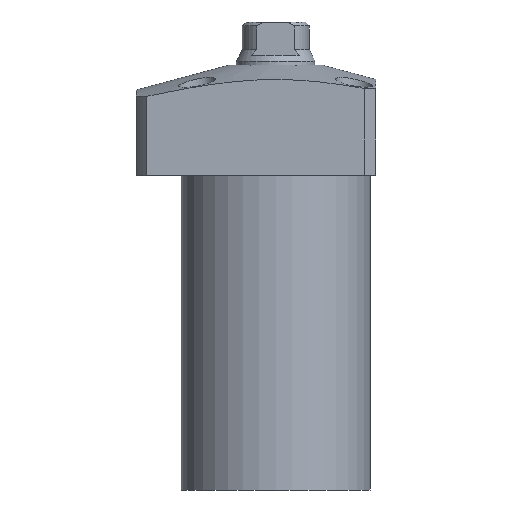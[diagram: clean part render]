
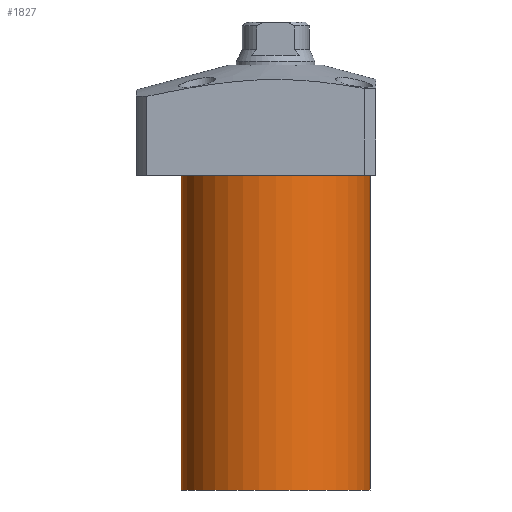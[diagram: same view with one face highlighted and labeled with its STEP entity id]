
A CAD part, front view. The second image highlights one B-rep face of the part: STEP entity #1827.
In plain terms, the highlighted cylindrical face has radius 24 mm (diameter 48 mm), a partial arc.
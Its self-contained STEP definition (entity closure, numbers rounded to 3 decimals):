
#13 = CARTESIAN_POINT ( 'NONE',  ( 0., 0., -94. ) ) ;
#23 = DIRECTION ( 'NONE',  ( 0., 0., 1. ) ) ;
#111 = CIRCLE ( 'NONE', #2467, 24. ) ;
#275 = VERTEX_POINT ( 'NONE', #2352 ) ;
#335 = EDGE_CURVE ( 'NONE', #1809, #2461, #382, .T. ) ;
#382 = LINE ( 'NONE', #419, #992 ) ;
#410 = ORIENTED_EDGE ( 'NONE', *, *, #710, .F. ) ;
#419 = CARTESIAN_POINT ( 'NONE',  ( -24., 0., -94. ) ) ;
#477 = ORIENTED_EDGE ( 'NONE', *, *, #335, .F. ) ;
#582 = EDGE_LOOP ( 'NONE', ( #477, #410, #707, #902 ) ) ;
#617 = CARTESIAN_POINT ( 'NONE',  ( -24., 0., -94. ) ) ;
#707 = ORIENTED_EDGE ( 'NONE', *, *, #1054, .T. ) ;
#710 = EDGE_CURVE ( 'NONE', #275, #1809, #2103, .T. ) ;
#747 = AXIS2_PLACEMENT_3D ( 'NONE', #770, #23, #2035 ) ;
#770 = CARTESIAN_POINT ( 'NONE',  ( 0., 0., -94. ) ) ;
#849 = CYLINDRICAL_SURFACE ( 'NONE', #747, 24. ) ;
#895 = VECTOR ( 'NONE', #2362, 1000. ) ;
#902 = ORIENTED_EDGE ( 'NONE', *, *, #1364, .T. ) ;
#992 = VECTOR ( 'NONE', #1800, 1000. ) ;
#1054 = EDGE_CURVE ( 'NONE', #275, #1197, #1911, .T. ) ;
#1058 = CARTESIAN_POINT ( 'NONE',  ( 24., 0., -14. ) ) ;
#1069 = DIRECTION ( 'NONE',  ( 0., 0., -1. ) ) ;
#1125 = DIRECTION ( 'NONE',  ( -1., 0., 0. ) ) ;
#1158 = AXIS2_PLACEMENT_3D ( 'NONE', #13, #1925, #1125 ) ;
#1197 = VERTEX_POINT ( 'NONE', #1058 ) ;
#1364 = EDGE_CURVE ( 'NONE', #1197, #2461, #111, .T. ) ;
#1435 = CARTESIAN_POINT ( 'NONE',  ( 0., 0., -14. ) ) ;
#1800 = DIRECTION ( 'NONE',  ( 0., 0., 1. ) ) ;
#1809 = VERTEX_POINT ( 'NONE', #617 ) ;
#1815 = CARTESIAN_POINT ( 'NONE',  ( -24., 0., -14. ) ) ;
#1827 = ADVANCED_FACE ( 'NONE', ( #2396 ), #849, .T. ) ;
#1911 = LINE ( 'NONE', #2190, #895 ) ;
#1925 = DIRECTION ( 'NONE',  ( 0., 0., -1. ) ) ;
#2035 = DIRECTION ( 'NONE',  ( 1., 0., 0. ) ) ;
#2103 = CIRCLE ( 'NONE', #1158, 24. ) ;
#2190 = CARTESIAN_POINT ( 'NONE',  ( 24., 0., -94. ) ) ;
#2352 = CARTESIAN_POINT ( 'NONE',  ( 24., 0., -94. ) ) ;
#2362 = DIRECTION ( 'NONE',  ( 0., 0., 1. ) ) ;
#2396 = FACE_OUTER_BOUND ( 'NONE', #582, .T. ) ;
#2424 = DIRECTION ( 'NONE',  ( 1., 0., 0. ) ) ;
#2461 = VERTEX_POINT ( 'NONE', #1815 ) ;
#2467 = AXIS2_PLACEMENT_3D ( 'NONE', #1435, #1069, #2424 ) ;
